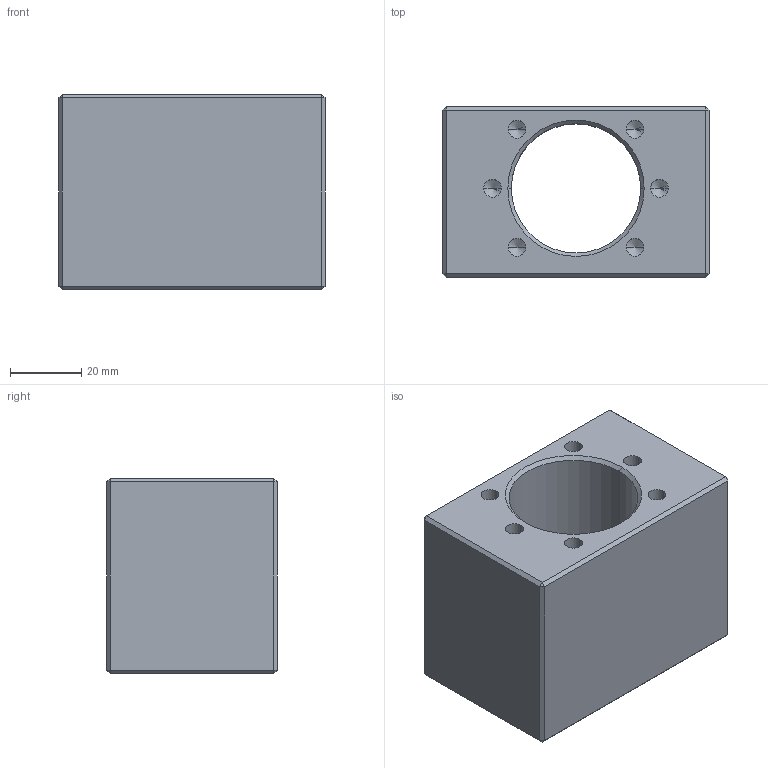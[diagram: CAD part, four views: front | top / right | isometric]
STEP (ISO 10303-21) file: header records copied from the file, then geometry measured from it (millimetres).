
FILE_DESCRIPTION (( 'STEP AP203' ), '1' );
FILE_NAME ('歐式螺帽座MGD20L.STEP', '2018-06-27T05:43:50', ( '' ), ( '' ), 'SwSTEP 2.0', 'SolidWorks 2018', '' );
FILE_SCHEMA (( 'CONFIG_CONTROL_DESIGN' ));
Length unit declared in the file: millimetre
Products named in the file (1): 歐式螺帽座MGD20L
Bounding box: 75 x 48 x 55 mm (x, y, z)
Volume: 135350.5 mm3; surface area: 27647.6 mm2
Topology: 1 solids, 1 shells, 72 faces, 162 edges, 82 vertices
Faces by surface type: plane 26, cone 24, cylinder 22
Entity records: 1891 total; most frequent: DIRECTION 336, CARTESIAN_POINT 297, ORIENTED_EDGE 284, EDGE_CURVE 142, AXIS2_PLACEMENT_3D 121, VECTOR 94, LINE 94, EDGE_LOOP 84
